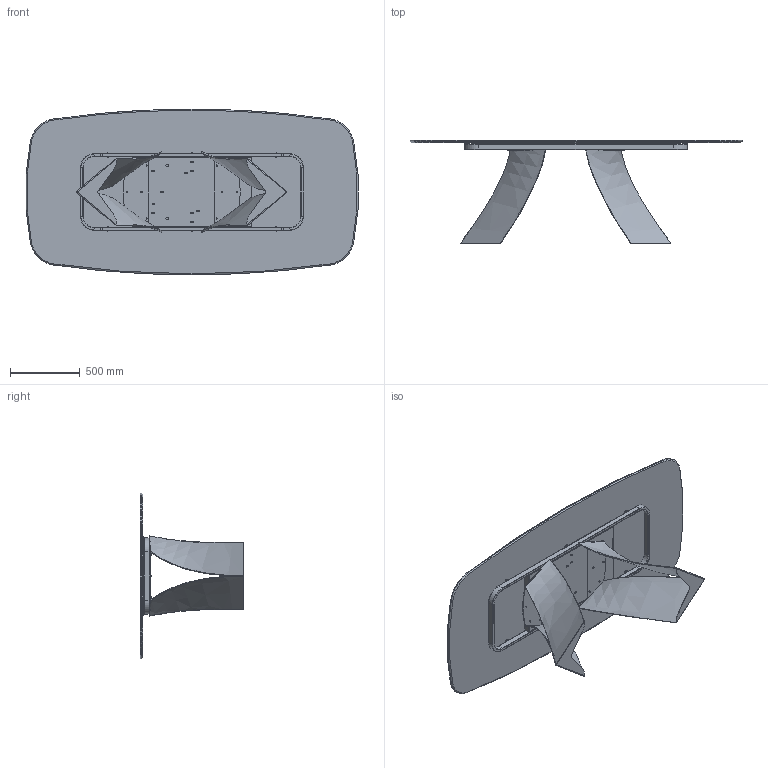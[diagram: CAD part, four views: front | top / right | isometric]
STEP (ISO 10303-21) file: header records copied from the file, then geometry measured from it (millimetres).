
FILE_DESCRIPTION (( 'STEP AP203' ), '1' );
FILE_NAME ('TW42C.STEP', '2024-08-07T12:43:45', ( '' ), ( '' ), 'SwSTEP 2.0', 'SolidWorks 2022', '' );
FILE_SCHEMA (( 'CONFIG_CONTROL_DESIGN' ));
Length unit declared in the file: millimetre
Products named in the file (9): TEALIO TEMP PER MANUALE; TTAV01_02-01-VASSOIO IRRIGIDIMENTO TELAIO UNIVERSALE; TW42C; M8xXXmm_M8x20mm; TUBOLARE TELAIO TEMP TWIST_Default<A macchina>; rondella M8_8X16; K4XCMXX-00-Piani Sagomati in ceramica_2390 x 1190; 434070-00-PIEDINO TPV GOMMA NERO D. 30x8max18; TWS000000BAS-00-TWIST BASE GREZZA
Assembly tree (36 placements, depth 3):
  TW42C
    K4XCMXX-00-Piani Sagomati in ceramica_2390 x 1190
    TEALIO TEMP PER MANUALE
      TUBOLARE TELAIO TEMP TWIST_Default<A macchina>
      TTAV01_02-01-VASSOIO IRRIGIDIMENTO TELAIO UNIVERSALE
    TWS000000BAS-00-TWIST BASE GREZZA  x2
    M8xXXmm_M8x20mm  x12
    rondella M8_8X16  x12
    434070-00-PIEDINO TPV GOMMA NERO D. 30x8max18  x6
Bounding box: 2382.15 x 741.37 x 1190 mm (x, y, z)
Volume: 52171436.5 mm3; surface area: 14975002.4 mm2
Topology: 57 solids, 57 shells, 1129 faces, 2631 edges, 1604 vertices
Faces by surface type: plane 426, cylinder 296, torus 200, cone 141, bspline 66
Entity records: 23066 total; most frequent: CARTESIAN_POINT 9021, DIRECTION 2638, ORIENTED_EDGE 2524, EDGE_CURVE 1262, AXIS2_PLACEMENT_3D 987, VERTEX_POINT 817, LINE 664, VECTOR 664
